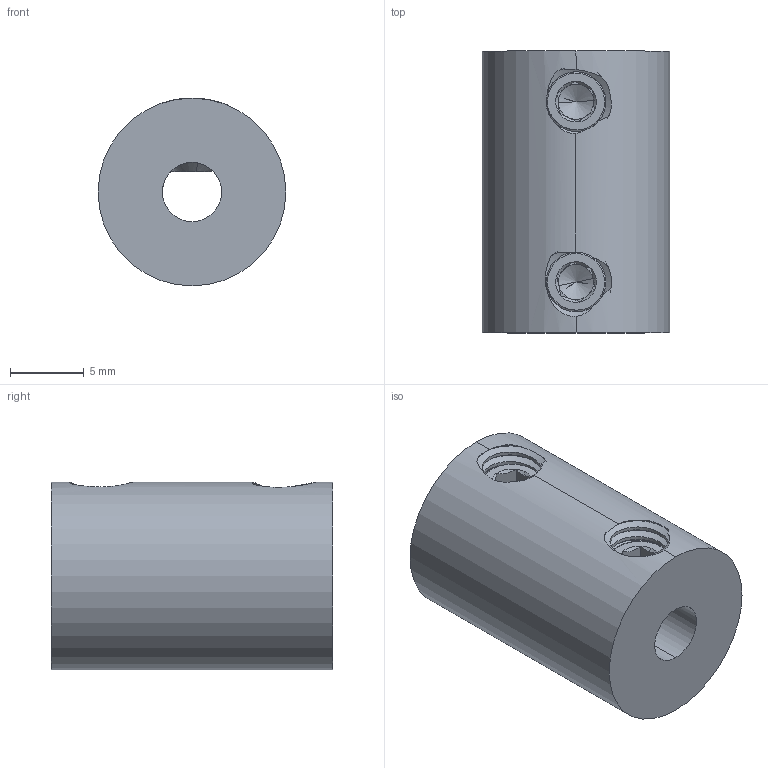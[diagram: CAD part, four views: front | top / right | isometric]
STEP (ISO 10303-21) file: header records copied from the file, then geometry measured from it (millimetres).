
FILE_DESCRIPTION (( 'STEP AP203' ), '1' );
FILE_NAME ('625216 assembly.STEP', '2016-08-26T15:04:32', ( '' ), ( '' ), 'SwSTEP 2.0', 'SolidWorks 2014', '' );
FILE_SCHEMA (( 'CONFIG_CONTROL_DESIGN' ));
Length unit declared in the file: inch
Products named in the file (3): 625216 assembly; 632134_91375A436; 625216
Assembly tree (3 placements, depth 2):
  625216 assembly
    625216
    632134_91375A436  x2
Bounding box: 12.69 x 19.05 x 12.69 mm (x, y, z)
Volume: 2095.7 mm3; surface area: 1572.3 mm2
Topology: 3 solids, 3 shells, 206 faces, 572 edges, 362 vertices
Faces by surface type: cylinder 108, cone 36, plane 32, bspline 30
Entity records: 15490 total; most frequent: CARTESIAN_POINT 11677, ORIENTED_EDGE 960, DIRECTION 486, EDGE_CURVE 480, VERTEX_POINT 313, AXIS2_PLACEMENT_3D 187, EDGE_LOOP 171, ADVANCED_FACE 168
